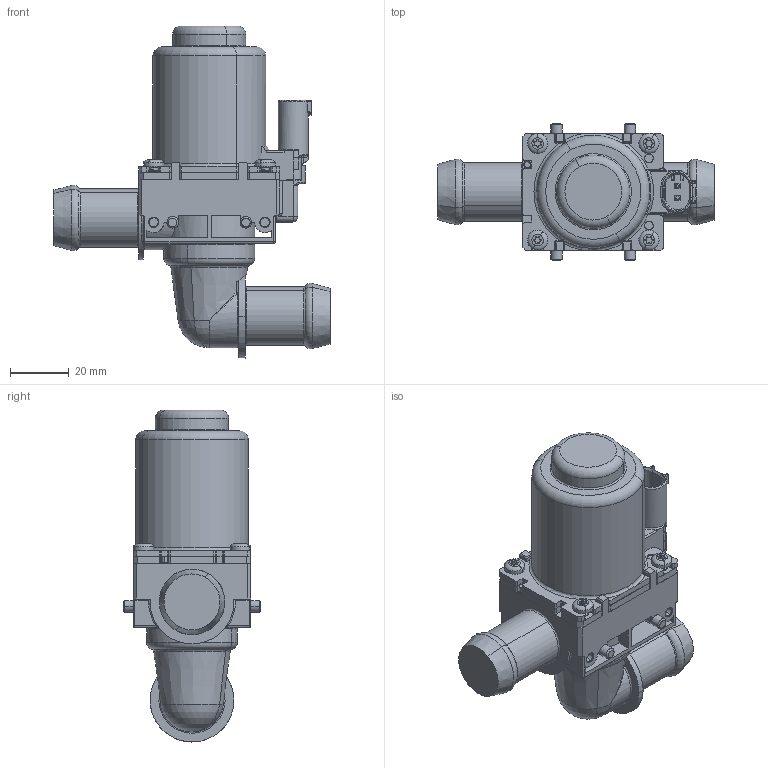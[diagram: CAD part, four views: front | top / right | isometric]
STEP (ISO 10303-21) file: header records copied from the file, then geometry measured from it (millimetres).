
FILE_DESCRIPTION(('CATIA V5 STEP Exchange'),'2;1');
FILE_NAME('C:\Documents and Settings\drk2bue\Desktop\0_140_A00_114_MV208.stp','2012-05-02T08:09:57+00:00',('none'),('none'),'CATIA Version 5 Release 19 SP 9 (IN-10)','CATIA V5 STEP AP214','none');
FILE_SCHEMA(('AUTOMOTIVE_DESIGN { 1 0 10303 214 1 1 1 1 }'));
Length unit declared in the file: millimetre
Products named in the file (1): 0 140 A00 114
Bounding box: 94.2 x 47 x 113.3 mm (x, y, z)
Volume: 134325.4 mm3; surface area: 36034.5 mm2
Topology: 8 solids, 8 shells, 938 faces, 2476 edges, 1552 vertices
Faces by surface type: plane 337, cylinder 337, torus 104, bspline 81, cone 53, sphere 26
Entity records: 36742 total; most frequent: CARTESIAN_POINT 15911, ORIENTED_EDGE 4884, DIRECTION 3212, EDGE_CURVE 2442, VERTEX_POINT 1552, AXIS2_PLACEMENT_3D 1463, VECTOR 1114, LINE 1114
